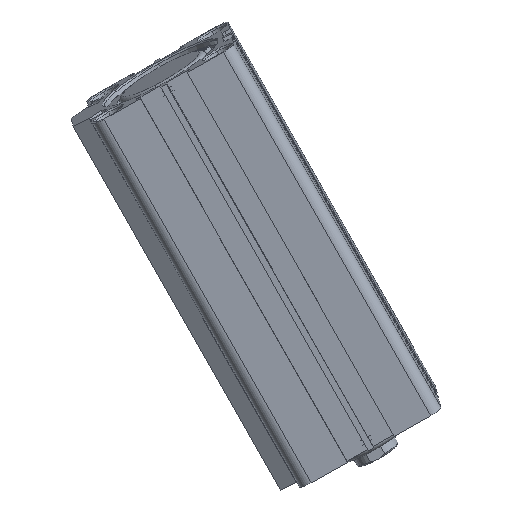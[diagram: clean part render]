
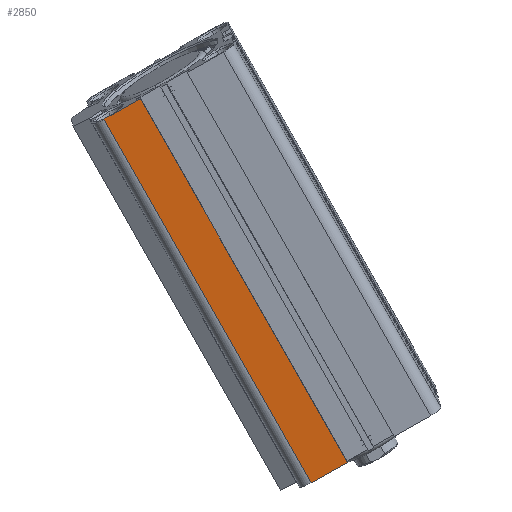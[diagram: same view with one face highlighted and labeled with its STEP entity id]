
A CAD part, left-side view. The second image highlights one B-rep face of the part: STEP entity #2850.
In plain terms, the highlighted planar face has unit normal (-0.987, -0.042, -0.158) as drawn and (-1, 0, 0) by its records, which use the part's own axes.
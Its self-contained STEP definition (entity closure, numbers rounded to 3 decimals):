
#1484 = LINE ( 'NONE', #7544, #10243 ) ;
#1772 = EDGE_CURVE ( 'NONE', #4990, #12610, #17614, .T. ) ;
#1899 = AXIS2_PLACEMENT_3D ( 'NONE', #10681, #18590, #4798 ) ;
#2850 = ADVANCED_FACE ( 'NONE', ( #18352 ), #3156, .T. ) ;
#3156 = PLANE ( 'NONE',  #1899 ) ;
#3188 = LINE ( 'NONE', #16414, #9975 ) ;
#4798 = DIRECTION ( 'NONE',  ( 0., -1., 0. ) ) ;
#4990 = VERTEX_POINT ( 'NONE', #17832 ) ;
#5099 = DIRECTION ( 'NONE',  ( 0., 1., 0. ) ) ;
#6441 = EDGE_CURVE ( 'NONE', #4990, #19498, #3188, .T. ) ;
#7000 = DIRECTION ( 'NONE',  ( 0., 0., -1. ) ) ;
#7147 = CARTESIAN_POINT ( 'NONE',  ( -26., 8.6, 136. ) ) ;
#7182 = EDGE_CURVE ( 'NONE', #19498, #17457, #1484, .T. ) ;
#7544 = CARTESIAN_POINT ( 'NONE',  ( -26., 22., 136. ) ) ;
#8585 = DIRECTION ( 'NONE',  ( 0., 1., 0. ) ) ;
#9232 = CARTESIAN_POINT ( 'NONE',  ( -26., 8.6, 0. ) ) ;
#9339 = CARTESIAN_POINT ( 'NONE',  ( -26., 22., 0. ) ) ;
#9975 = VECTOR ( 'NONE', #8585, 1000. ) ;
#10178 = EDGE_LOOP ( 'NONE', ( #12672, #19391, #13137, #19512 ) ) ;
#10243 = VECTOR ( 'NONE', #15512, 1000. ) ;
#10669 = VECTOR ( 'NONE', #7000, 1000. ) ;
#10681 = CARTESIAN_POINT ( 'NONE',  ( -26., 0., 136. ) ) ;
#12610 = VERTEX_POINT ( 'NONE', #9232 ) ;
#12672 = ORIENTED_EDGE ( 'NONE', *, *, #16183, .F. ) ;
#13137 = ORIENTED_EDGE ( 'NONE', *, *, #6441, .T. ) ;
#14164 = LINE ( 'NONE', #19316, #14762 ) ;
#14762 = VECTOR ( 'NONE', #5099, 1000. ) ;
#15512 = DIRECTION ( 'NONE',  ( 0., 0., -1. ) ) ;
#16183 = EDGE_CURVE ( 'NONE', #12610, #17457, #14164, .T. ) ;
#16277 = CARTESIAN_POINT ( 'NONE',  ( -26., 22., 136. ) ) ;
#16414 = CARTESIAN_POINT ( 'NONE',  ( -26., 0., 136. ) ) ;
#17457 = VERTEX_POINT ( 'NONE', #9339 ) ;
#17614 = LINE ( 'NONE', #7147, #10669 ) ;
#17832 = CARTESIAN_POINT ( 'NONE',  ( -26., 8.6, 136. ) ) ;
#18352 = FACE_OUTER_BOUND ( 'NONE', #10178, .T. ) ;
#18590 = DIRECTION ( 'NONE',  ( -1., 0., 0. ) ) ;
#19316 = CARTESIAN_POINT ( 'NONE',  ( -26., 0., 0. ) ) ;
#19391 = ORIENTED_EDGE ( 'NONE', *, *, #1772, .F. ) ;
#19498 = VERTEX_POINT ( 'NONE', #16277 ) ;
#19512 = ORIENTED_EDGE ( 'NONE', *, *, #7182, .T. ) ;
